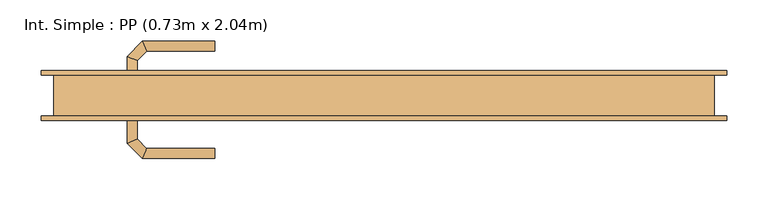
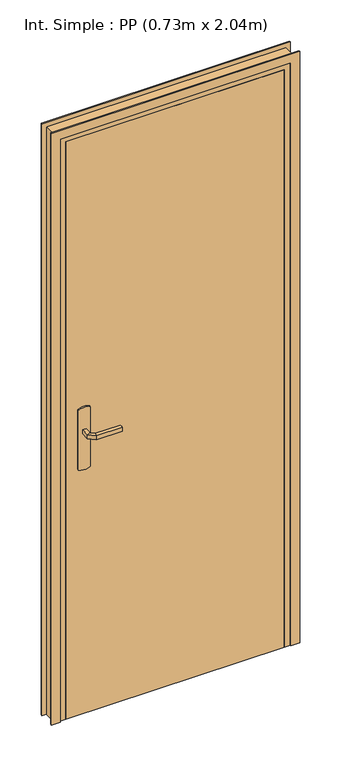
"""IFC4 building model written with IfcOpenShell, lengths in millimetres: door geometry, Int. Simple : PP (0.73m x 2.04m)."""

import ifcopenshell
import ifcopenshell.guid

model = None  # the IFC model being written
_history = None  # IfcOwnerHistory: only IFC2X3 demands one
_inside = {}  # id of a spatial element -> (the spatial element, [elements in it])
_under = {}  # id of a project, library or spatial element -> (it, [spatial elements below it])
_declared = {}  # id of a project -> (the project, [libraries it declares])
_typed = {}  # id of a type object -> (the type object, [elements of that type])
_made_of = {}  # id of a material, layer set ... -> (it, [elements and type objects made of it])


def new_model(schema):
    """Start an empty IFC model of exactly this schema.

    Asked for "IFC4X3", IfcOpenShell would pick the latest addendum, in which some entities
    have other attributes; the version numbers below select the first issue.
    IFC2X3 requires an IfcOwnerHistory on every rooted entity: one is made here for all.
    """
    global model, _history
    if schema == "IFC4X3":
        model = ifcopenshell.file(schema_version=(4, 3, 0, 0))
    else:
        model = ifcopenshell.file(schema=schema)
    _inside.clear()
    _under.clear()
    _declared.clear()
    _typed.clear()
    _made_of.clear()
    _history = None
    if model.schema == "IFC2X3":
        org = make("IfcOrganization", Name="unknown")
        user = make(
            "IfcPersonAndOrganization",
            ThePerson=make("IfcPerson", FamilyName="unknown"),
            TheOrganization=org,
        )
        app = make(
            "IfcApplication",
            ApplicationDeveloper=org,
            Version="unknown",
            ApplicationFullName="unknown",
            ApplicationIdentifier="unknown",
        )
        _history = make(
            "IfcOwnerHistory",
            OwningUser=user,
            OwningApplication=app,
            ChangeAction="ADDED",
            CreationDate=0,
        )
    return model


def make(cls, **values):
    """One entity of the class cls with the attributes given. An attribute that is None is left unset."""
    return model.create_entity(
        cls, **{name: value for name, value in values.items() if value is not None}
    )


def rooted(cls, **values):
    """An entity with a GlobalId (a new one), such as an element, a storey or a relation."""
    return make(cls, GlobalId=ifcopenshell.guid.new(), OwnerHistory=_history, **values)


def si_unit(unit_type, name, prefix=None):
    """IfcSIUnit, for example si_unit("LENGTHUNIT", "METRE", prefix="MILLI")."""
    return make("IfcSIUnit", UnitType=unit_type, Prefix=prefix, Name=name)


def assignment(units):
    """IfcUnitAssignment: the units of a project."""
    return None if units is None else make("IfcUnitAssignment", Units=units)


def point(xyz):
    """IfcCartesianPoint."""
    return None if xyz is None else make("IfcCartesianPoint", Coordinates=xyz)


def direction(xyz):
    """IfcDirection."""
    return None if xyz is None else make("IfcDirection", DirectionRatios=xyz)


def frame(location, z_axis=None, x_axis=None):
    """IfcAxis2Placement3D, a coordinate frame: its origin and axes. An axis left out is left unset."""
    return make(
        "IfcAxis2Placement3D",
        Location=point(location),
        Axis=direction(z_axis),
        RefDirection=direction(x_axis),
    )


def frame_2d(location, x_axis=None):
    """IfcAxis2Placement2D, a coordinate frame in the plane: its origin and x axis."""
    return make(
        "IfcAxis2Placement2D", Location=point(location), RefDirection=direction(x_axis)
    )


def origin():
    """The frame at (0, 0, 0) with its axes left unset."""
    return frame((0.0, 0.0, 0.0))


def origin_with_axes():
    """The frame at (0, 0, 0) with the z axis (0, 0, 1) and the x axis (1, 0, 0) written out."""
    return frame((0.0, 0.0, 0.0), z_axis=(0.0, 0.0, 1.0), x_axis=(1.0, 0.0, 0.0))


def place(relative_to, where):
    """IfcLocalPlacement: puts the frame where relative to a parent placement (None: the world)."""
    return make(
        "IfcLocalPlacement", PlacementRelTo=relative_to, RelativePlacement=where
    )


def context(
    kind, dimensions, precision=None, world=None, true_north=None, identifier=None
):
    """IfcGeometricRepresentationContext, for example the 3D "Model" context."""
    return make(
        "IfcGeometricRepresentationContext",
        ContextIdentifier=identifier,
        ContextType=kind,
        CoordinateSpaceDimension=dimensions,
        Precision=precision,
        WorldCoordinateSystem=world,
        TrueNorth=true_north,
    )


def project(units=None, contexts=None):
    """IfcProject with its units and contexts."""
    return rooted(
        "IfcProject",
        Name="project",
        RepresentationContexts=contexts,
        UnitsInContext=assignment(units),
    )


def spatial(cls, under=None, at=None, **own):
    """A site, building, storey or space (cls), placed at a placement, below another one or the project."""
    s = rooted(cls, ObjectPlacement=at, **own)
    if under is not None:
        _under.setdefault(under.id(), (under, []))[1].append(s)
    return s


def polyline(points):
    """IfcPolyline through the points."""
    return make("IfcPolyline", Points=[point(p) for p in points])


def circle_curve(where, radius):
    """IfcCircle in the frame where."""
    return make("IfcCircle", Position=where, Radius=radius)


def ellipse_curve(where, semi_axis1, semi_axis2):
    """IfcEllipse in the frame where."""
    return make(
        "IfcEllipse", Position=where, SemiAxis1=semi_axis1, SemiAxis2=semi_axis2
    )


def trimmed(basis, trim1, trim2, sense, master):
    """IfcTrimmedCurve: the piece of a basis curve between two trims."""
    return make(
        "IfcTrimmedCurve",
        BasisCurve=basis,
        Trim1=trim1,
        Trim2=trim2,
        SenseAgreement=sense,
        MasterRepresentation=master,
    )


def segment(curve, same_sense, transition):
    """IfcCompositeCurveSegment."""
    return make(
        "IfcCompositeCurveSegment",
        Transition=transition,
        SameSense=same_sense,
        ParentCurve=curve,
    )


def composite_curve(segments, self_intersect=None):
    """IfcCompositeCurve: segments joined end to end."""
    return make("IfcCompositeCurve", Segments=segments, SelfIntersect=self_intersect)


def outline(outer, holes=None, kind="AREA"):
    """IfcArbitraryClosedProfileDef: a profile drawn as a closed curve; with holes, ...WithVoids."""
    if holes is None:
        return make("IfcArbitraryClosedProfileDef", ProfileType=kind, OuterCurve=outer)
    return make(
        "IfcArbitraryProfileDefWithVoids",
        ProfileType=kind,
        OuterCurve=outer,
        InnerCurves=holes,
    )


def extrude(swept, where, along, depth):
    """IfcExtrudedAreaSolid: the profile swept, set in the frame where, extruded along a direction by depth."""
    return make(
        "IfcExtrudedAreaSolid",
        SweptArea=swept,
        Position=where,
        ExtrudedDirection=direction(along),
        Depth=depth,
    )


def faces_of(points, faces, orient=None, outer=None):
    """IfcFace entities. A face is a list of loops; a loop is a list of indices into points, from 0.

    orient and outer hold one flag for each loop. By default every Orientation is true, the
    first loop of a face is its IfcFaceOuterBound and the others are IfcFaceBound.
    """
    made = []
    for i, loops in enumerate(faces):
        bounds = []
        for j, loop in enumerate(loops):
            is_outer = j == 0 if outer is None else outer[i][j]
            bounds.append(
                make(
                    "IfcFaceOuterBound" if is_outer else "IfcFaceBound",
                    Bound=make("IfcPolyLoop", Polygon=[points[k] for k in loop]),
                    Orientation=True if orient is None else orient[i][j],
                )
            )
        made.append(make("IfcFace", Bounds=bounds))
    return made


def faceted_brep(points, faces, orient=None, outer=None, voids=None):
    """IfcFacetedBrep: a solid bounded by flat faces; with voids (closed shells), ...WithVoids."""
    shared = [point(p) for p in points]
    hull = make("IfcClosedShell", CfsFaces=faces_of(shared, faces, orient, outer))
    if voids is None:
        return make("IfcFacetedBrep", Outer=hull)
    return make(
        "IfcFacetedBrepWithVoids",
        Outer=hull,
        Voids=[
            make(cls, CfsFaces=faces_of(shared, fs, o, b)) for cls, fs, o, b in voids
        ],
    )


def shape(context_of_items, identifier, shape_type, items):
    """IfcShapeRepresentation: the items that make up one representation, for example the "Body"."""
    return make(
        "IfcShapeRepresentation",
        ContextOfItems=context_of_items,
        RepresentationIdentifier=identifier,
        RepresentationType=shape_type,
        Items=items,
    )


def source(mapping_origin, context_of_items, identifier, shape_type, items):
    """IfcRepresentationMap: a shape defined once, which mapped items show again and again."""
    return make(
        "IfcRepresentationMap",
        MappingOrigin=mapping_origin,
        MappedRepresentation=shape(context_of_items, identifier, shape_type, items),
    )


def transform(
    local_origin,
    x_axis=None,
    y_axis=None,
    z_axis=None,
    scale=None,
    scale2=None,
    scale3=None,
    uniform=True,
):
    """IfcCartesianTransformationOperator3D, or its non-uniform kind. x_axis, y_axis, z_axis: its Axis1, 2, 3."""
    if uniform:
        return make(
            "IfcCartesianTransformationOperator3D",
            Axis1=direction(x_axis),
            Axis2=direction(y_axis),
            LocalOrigin=point(local_origin),
            Scale=scale,
            Axis3=direction(z_axis),
        )
    return make(
        "IfcCartesianTransformationOperator3DnonUniform",
        Axis1=direction(x_axis),
        Axis2=direction(y_axis),
        LocalOrigin=point(local_origin),
        Scale=scale,
        Axis3=direction(z_axis),
        Scale2=scale2,
        Scale3=scale3,
    )


def mapped(mapping_source, mapping_target):
    """IfcMappedItem: shows the shape of a source again, moved by a transform."""
    return make(
        "IfcMappedItem", MappingSource=mapping_source, MappingTarget=mapping_target
    )


def made_of(thing, what):
    """Note that an element or type object is made of a material, layer set ...; save() writes the relation."""
    if what is not None:
        _made_of.setdefault(what.id(), (what, []))[1].append(thing)
    return thing


def element(
    cls,
    number,
    at=None,
    inside=None,
    cuts=None,
    type_object=None,
    material=None,
    context=None,
    identifier="Body",
    shape_type=None,
    held_by="IfcProductDefinitionShape",
    body=None,
    shapes=None,
    **own,
):
    """One element of the class cls, such as IfcWall. Its Tag is "e" and its number.

    at: its placement. inside: the storey or other place that contains it. cuts: it is an
    opening in that element (IfcRelVoidsElement). A single representation is given by context,
    identifier, shape_type and body (its items); several are given by shapes. held_by: the class
    of the entity that holds the representations. save() writes the other relations.
    """
    e = rooted(cls, Tag="e%d" % number, ObjectPlacement=at, **own)
    if body is not None:
        shapes = [shape(context, identifier, shape_type, body)]
    if shapes is not None:
        e.Representation = make(held_by, Representations=shapes)
    if inside is not None:
        _inside.setdefault(inside.id(), (inside, []))[1].append(e)
    if cuts is not None:
        rooted(
            "IfcRelVoidsElement", RelatingBuildingElement=cuts, RelatedOpeningElement=e
        )
    if type_object is not None:
        _typed.setdefault(type_object.id(), (type_object, []))[1].append(e)
    return made_of(e, material)


def aggregate(whole, parts):
    """IfcRelAggregates: a whole, such as a stair, and the parts it consists of."""
    return rooted("IfcRelAggregates", RelatingObject=whole, RelatedObjects=parts)


def save(model, path):
    """Write the relations noted so far, then the file.

    IfcRelAggregates (storeys below a building ...), IfcRelContainedInSpatialStructure (elements
    in a storey), IfcRelDefinesByType, IfcRelAssociatesMaterial and IfcRelDeclares: one each for
    every whole, place, type object, material and project.
    """
    for whole, parts in _under.values():
        aggregate(whole, parts)
    for where, things in _inside.values():
        rooted(
            "IfcRelContainedInSpatialStructure",
            RelatedElements=things,
            RelatingStructure=where,
        )
    for kind, things in _typed.values():
        rooted("IfcRelDefinesByType", RelatedObjects=things, RelatingType=kind)
    for what, things in _made_of.values():
        rooted("IfcRelAssociatesMaterial", RelatedObjects=things, RelatingMaterial=what)
    for by, libraries in _declared.values():
        rooted("IfcRelDeclares", RelatingContext=by, RelatedDefinitions=libraries)
    model.write(path)


def plane_surface(at):
    """IfcPlane: the flat surface through the origin of the frame at, square to its z axis."""
    return make("IfcPlane", Position=at)


def cylinder_surface(at, radius):
    """IfcCylindricalSurface: all points at the distance radius from the z axis of the frame at."""
    return make("IfcCylindricalSurface", Position=at, Radius=radius)


def advanced_brep(points, edges, surfaces, faces):
    """IfcAdvancedBrep: a solid bounded by faces that lie on surfaces and meet in shared edges.

    An edge is (start, end): straight between two places in points (the first is 0);
    or (start, end, curve); or (start, end, curve, False) where it runs against its curve.
    A face is (place in surfaces, loops), or (place, loops, False) where it looks against
    its surface's normal. A loop lists edges by number (the first is 1), with a minus sign
    where the edge is run from its end to its start. The first loop is the outer one.
    """
    corners = [point(p) for p in points]
    vertices = [make("IfcVertexPoint", VertexGeometry=c) for c in corners]
    made = []
    for start, end, *more in edges:
        made.append(
            make(
                "IfcEdgeCurve",
                EdgeStart=vertices[start],
                EdgeEnd=vertices[end],
                EdgeGeometry=more[0] if more else make("IfcPolyline", Points=[corners[start], corners[end]]),
                SameSense=more[1] if len(more) > 1 else True,
            )
        )
    hull = []
    for where, loops, *sense in faces:
        bounds = []
        for j, loop in enumerate(loops):
            ring = [make("IfcOrientedEdge", EdgeElement=made[abs(k) - 1], Orientation=k > 0) for k in loop]
            bounds.append(
                make(
                    "IfcFaceOuterBound" if j == 0 else "IfcFaceBound",
                    Bound=make("IfcEdgeLoop", EdgeList=ring),
                    Orientation=True,
                )
            )
        hull.append(make("IfcAdvancedFace", Bounds=bounds, FaceSurface=surfaces[where], SameSense=sense[0] if sense else True))
    return make("IfcAdvancedBrep", Outer=make("IfcClosedShell", CfsFaces=hull))


def int_simple_pp_0_73m_x_2_04m_d3aae1b6(model_context):
    return source(origin(), model_context, "Body", "SolidModel", [
        extrude(outline(composite_curve([segment(trimmed(circle_curve(frame_2d((904.6410162, -340.0)), 40.0), [point((870.0, -360.0))], [point((870.0, -320.0))], False, "CARTESIAN"), True, "CONTINUOUS"), segment(polyline([(870.0, -320.0), (1080.0, -320.0)]), True, "CONTINUOUS"), segment(trimmed(circle_curve(frame_2d((1045.3589838, -340.0)), 40.0), [point((1080.0, -320.0))], [point((1080.0, -360.0))], False, "CARTESIAN"), True, "CONTINUOUS"), segment(polyline([(1080.0, -360.0), (870.0, -360.0)]), True, "CONTINUOUS")], self_intersect=False)), frame((0.0, -30.0, 0.0), z_axis=(0.0, 1.0, 0.0), x_axis=(0.0, 0.0, 1.0)), (0.0, 0.0, 1.0), 5.0),
        extrude(outline(composite_curve([segment(trimmed(circle_curve(frame_2d((1045.3589838, -340.0)), 40.0), [point((1080.0, -320.0))], [point((1080.0, -360.0))], False, "CARTESIAN"), True, "CONTINUOUS"), segment(polyline([(1080.0, -360.0), (870.0, -360.0)]), True, "CONTINUOUS"), segment(trimmed(circle_curve(frame_2d((904.6410162, -340.0)), 40.0), [point((870.0, -360.0))], [point((870.0, -320.0))], False, "CARTESIAN"), True, "CONTINUOUS"), segment(polyline([(870.0, -320.0), (1080.0, -320.0)]), True, "CONTINUOUS")], self_intersect=False)), frame((0.0, 15.0, 0.0), z_axis=(0.0, 1.0, 0.0), x_axis=(0.0, 0.0, 1.0)), (0.0, 0.0, 1.0), 5.0),
        advanced_brep(
        [(-346.0, -30.0, 1007.0), (-334.0, -30.0, 1007.0), (-334.0, -30.0, 993.0), (-346.0, -30.0, 993.0), (-346.0, -57.6509507, 1007.0), (-334.0, -52.680388, 1007.0), (-334.0, -52.680388, 993.0), (-346.0, -57.6509507, 993.0), (-327.62279, -76.0281607, 1007.0), (-322.6522273, -64.0281607, 1007.0), (-322.6522273, -64.0281607, 993.0), (-327.62279, -76.0281607, 993.0), (-239.9813594, -76.0281607, 1007.0), (-239.9813594, -76.0281607, 993.0), (-239.9813594, -64.0281607, 993.0), (-239.9813594, -64.0281607, 1007.0)],
        [
            (0, 1, circle_curve(frame((-340.0, -30.0, 986.9542278), z_axis=(0.0, 1.0, 0.0), x_axis=(1.0, 0.0, 0.0)), 20.9244589)),
            (1, 2),
            (2, 3, circle_curve(frame((-340.0, -30.0, 1013.0457722), z_axis=(0.0, 1.0, 0.0), x_axis=(1.0, 0.0, 0.0)), 20.9244589)),
            (3, 0),
            (0, 4),
            (4, 5, ellipse_curve(frame((-340.0, -55.1656693, 986.9542278), z_axis=(-0.3826834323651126, 0.9238795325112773, 0.0), x_axis=(0.9238795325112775, 0.38268343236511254, 0.0)), 22.6484711, 20.9244589)),
            (5, 1),
            (5, 6),
            (6, 2),
            (6, 7, ellipse_curve(frame((-340.0, -55.1656693, 1013.0457722), z_axis=(-0.3826834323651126, 0.9238795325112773, 0.0), x_axis=(0.9238795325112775, 0.38268343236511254, 0.0)), 22.6484711, 20.9244589)),
            (7, 3),
            (7, 4),
            (4, 8),
            (8, 9, ellipse_curve(frame((-325.1375086, -70.0281607, 986.9542278), z_axis=(-0.9238795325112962, 0.38268343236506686, 0.0), x_axis=(0.3826834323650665, 0.9238795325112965, 0.0)), 22.6484711, 20.9244589)),
            (9, 5),
            (9, 10),
            (10, 6),
            (10, 11, ellipse_curve(frame((-325.1375086, -70.0281607, 1013.0457722), z_axis=(-0.9238795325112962, 0.38268343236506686, 0.0), x_axis=(0.3826834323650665, 0.9238795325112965, 0.0)), 22.6484711, 20.9244589)),
            (11, 7),
            (11, 8),
            (12, 13),
            (13, 14, circle_curve(frame((-239.9813594, -70.0281607, 1013.0457722), z_axis=(1.0, 0.0, 0.0), x_axis=(0.0, 1.0, 0.0)), 20.9244589)),
            (14, 15),
            (15, 12, circle_curve(frame((-239.9813594, -70.0281607, 986.9542278), z_axis=(1.0, 0.0, 0.0), x_axis=(0.0, 1.0, 0.0)), 20.9244589)),
            (8, 12),
            (15, 9),
            (14, 10),
            (13, 11),
        ],
        [
            plane_surface(frame((-349.2195445, -30.0, 1000.0), z_axis=(0.0, 1.0, 0.0), x_axis=(0.0, 0.0, -1.0))),
            cylinder_surface(frame((-340.0, -30.0, 986.9542278), z_axis=(0.0, 1.0, 0.0), x_axis=(1.0, 0.0, 0.0)), 20.9244589),
            plane_surface(frame((-334.0, -30.0, 1007.0), z_axis=(1.0, 0.0, 0.0), x_axis=(0.0, -1.0, 0.0))),
            cylinder_surface(frame((-340.0, -30.0, 1013.0457722), z_axis=(0.0, 1.0, 0.0), x_axis=(1.0, 0.0, 0.0)), 20.9244589),
            plane_surface(frame((-346.0, -30.0, 993.0), z_axis=(-1.0, 0.0, 0.0), x_axis=(0.0, -1.0, 0.0))),
            cylinder_surface(frame((-340.0, -55.1656693, 986.9542278), z_axis=(-0.7071067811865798, 0.7071067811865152, 0.0), x_axis=(0.7071067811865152, 0.7071067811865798, 0.0)), 20.9244589),
            plane_surface(frame((-334.0, -52.680388, 1007.0), z_axis=(0.7071067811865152, 0.7071067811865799, 0.0), x_axis=(0.7071067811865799, -0.7071067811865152, 0.0))),
            cylinder_surface(frame((-340.0, -55.1656693, 1013.0457722), z_axis=(-0.7071067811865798, 0.7071067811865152, 0.0), x_axis=(0.7071067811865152, 0.7071067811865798, 0.0)), 20.9244589),
            plane_surface(frame((-346.0, -57.6509507, 993.0), z_axis=(-0.7071067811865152, -0.7071067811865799, 0.0), x_axis=(0.7071067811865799, -0.7071067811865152, 0.0))),
            plane_surface(frame((-239.9813594, -70.0281607, 990.7804555), z_axis=(1.0, 0.0, 0.0), x_axis=(0.0, 1.0, 0.0))),
            cylinder_surface(frame((-325.1375086, -70.0281607, 986.9542278), z_axis=(-1.0, 0.0, 0.0), x_axis=(0.0, 1.0, 0.0)), 20.9244589),
            plane_surface(frame((-322.6522273, -64.0281607, 1007.0), z_axis=(0.0, 1.0, 0.0), x_axis=(1.0, 0.0, 0.0))),
            cylinder_surface(frame((-325.1375086, -70.0281607, 1013.0457722), z_axis=(-1.0, 0.0, 0.0), x_axis=(0.0, 1.0, 0.0)), 20.9244589),
            plane_surface(frame((-327.62279, -76.0281607, 993.0), z_axis=(0.0, -1.0, 0.0), x_axis=(1.0, 0.0, 0.0))),
        ],
        [
            (0, [[1, 2, 3, 4]]),
            (1, [[-1, 5, 6, 7]]),
            (2, [[-2, -7, 8, 9]]),
            (3, [[-3, -9, 10, 11]]),
            (4, [[-4, -11, 12, -5]]),
            (5, [[-6, 13, 14, 15]]),
            (6, [[-8, -15, 16, 17]]),
            (7, [[-10, -17, 18, 19]]),
            (8, [[-12, -19, 20, -13]]),
            (9, [[21, 22, 23, 24]]),
            (10, [[-14, 25, -24, 26]]),
            (11, [[-16, -26, -23, 27]]),
            (12, [[-18, -27, -22, 28]]),
            (13, [[-20, -28, -21, -25]]),
        ],
    ),
        advanced_brep(
        [(-334.0, 20.0, 993.0), (-334.0, 20.0, 1007.0), (-346.0, 20.0, 1007.0), (-346.0, 20.0, 993.0), (-334.0, 42.4852045, 993.0), (-334.0, 42.4852045, 1007.0), (-346.0, 47.4557673, 1007.0), (-346.0, 47.4557673, 993.0), (-322.5147186, 53.9704859, 993.0), (-322.5147186, 53.9704859, 1007.0), (-327.4852814, 65.9704859, 1007.0), (-327.4852814, 65.9704859, 993.0), (-239.9542163, 53.9704859, 993.0), (-239.9542163, 65.9704859, 993.0), (-239.9542163, 65.9704859, 1007.0), (-239.9542163, 53.9704859, 1007.0)],
        [
            (0, 1),
            (1, 2, circle_curve(frame((-340.0, 20.0, 986.9542278), z_axis=(0.0, -1.0, 0.0), x_axis=(-1.0, 0.0, 0.0)), 20.9244589)),
            (2, 3),
            (3, 0, circle_curve(frame((-340.0, 20.0, 1013.0457722), z_axis=(0.0, -1.0, 0.0), x_axis=(-1.0, 0.0, 0.0)), 20.9244589)),
            (0, 4),
            (4, 5),
            (5, 1),
            (5, 6, ellipse_curve(frame((-340.0, 44.9704859, 986.9542278), z_axis=(-0.3826834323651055, -0.9238795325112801, 0.0), x_axis=(0.9238795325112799, -0.3826834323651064, 0.0)), 22.6484711, 20.9244589)),
            (6, 2),
            (6, 7),
            (7, 3),
            (7, 4, ellipse_curve(frame((-340.0, 44.9704859, 1013.0457722), z_axis=(-0.3826834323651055, -0.9238795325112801, 0.0), x_axis=(0.9238795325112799, -0.3826834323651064, 0.0)), 22.6484711, 20.9244589)),
            (4, 8),
            (8, 9),
            (9, 5),
            (9, 10, ellipse_curve(frame((-325.0, 59.9704859, 986.9542278), z_axis=(-0.9238795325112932, -0.382683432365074, 0.0), x_axis=(0.3826834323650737, -0.9238795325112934, 0.0)), 22.6484711, 20.9244589)),
            (10, 6),
            (10, 11),
            (11, 7),
            (11, 8, ellipse_curve(frame((-325.0, 59.9704859, 1013.0457722), z_axis=(-0.9238795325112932, -0.382683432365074, 0.0), x_axis=(0.3826834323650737, -0.9238795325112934, 0.0)), 22.6484711, 20.9244589)),
            (12, 13, circle_curve(frame((-239.9542163, 59.9704859, 1013.0457722), z_axis=(1.0, 0.0, 0.0), x_axis=(0.0, 1.0, 0.0)), 20.9244589)),
            (13, 14),
            (14, 15, circle_curve(frame((-239.9542163, 59.9704859, 986.9542278), z_axis=(1.0, 0.0, 0.0), x_axis=(0.0, 1.0, 0.0)), 20.9244589)),
            (15, 12),
            (8, 12),
            (15, 9),
            (14, 10),
            (13, 11),
        ],
        [
            plane_surface(frame((-349.2195445, 20.0, 1000.0), z_axis=(0.0, -1.0, 0.0), x_axis=(0.0, 0.0, 1.0))),
            plane_surface(frame((-334.0, 20.0, 993.0), z_axis=(1.0, 0.0, 0.0), x_axis=(0.0, 1.0, 0.0))),
            cylinder_surface(frame((-340.0, 20.0, 986.9542278), z_axis=(0.0, -1.0, 0.0), x_axis=(-1.0, 0.0, 0.0)), 20.9244589),
            plane_surface(frame((-346.0, 20.0, 1007.0), z_axis=(-1.0, 0.0, 0.0), x_axis=(0.0, 1.0, 0.0))),
            cylinder_surface(frame((-340.0, 20.0, 1013.0457722), z_axis=(0.0, -1.0, 0.0), x_axis=(-1.0, 0.0, 0.0)), 20.9244589),
            plane_surface(frame((-334.0, 42.4852045, 993.0), z_axis=(0.7071067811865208, -0.7071067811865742, 0.0), x_axis=(0.7071067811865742, 0.7071067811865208, 0.0))),
            cylinder_surface(frame((-340.0, 44.9704859, 986.9542278), z_axis=(-0.7071067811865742, -0.7071067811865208, 0.0), x_axis=(-0.7071067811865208, 0.7071067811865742, 0.0)), 20.9244589),
            plane_surface(frame((-346.0, 47.4557673, 1007.0), z_axis=(-0.7071067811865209, 0.7071067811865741, 0.0), x_axis=(0.7071067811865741, 0.7071067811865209, 0.0))),
            cylinder_surface(frame((-340.0, 44.9704859, 1013.0457722), z_axis=(-0.7071067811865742, -0.7071067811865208, 0.0), x_axis=(-0.7071067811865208, 0.7071067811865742, 0.0)), 20.9244589),
            plane_surface(frame((-239.9542163, 59.9704859, 990.7804555), z_axis=(1.0, 0.0, 0.0), x_axis=(0.0, 1.0, 0.0))),
            plane_surface(frame((-322.5147186, 53.9704859, 993.0), z_axis=(0.0, -1.0, 0.0), x_axis=(1.0, 0.0, 0.0))),
            cylinder_surface(frame((-325.0, 59.9704859, 986.9542278), z_axis=(-1.0, 0.0, 0.0), x_axis=(0.0, 1.0, 0.0)), 20.9244589),
            plane_surface(frame((-327.4852814, 65.9704859, 1007.0), z_axis=(0.0, 1.0, 0.0), x_axis=(1.0, 0.0, 0.0))),
            cylinder_surface(frame((-325.0, 59.9704859, 1013.0457722), z_axis=(-1.0, 0.0, 0.0), x_axis=(0.0, 1.0, 0.0)), 20.9244589),
        ],
        [
            (0, [[1, 2, 3, 4]]),
            (1, [[-1, 5, 6, 7]]),
            (2, [[-2, -7, 8, 9]]),
            (3, [[-3, -9, 10, 11]]),
            (4, [[-4, -11, 12, -5]]),
            (5, [[-6, 13, 14, 15]]),
            (6, [[-8, -15, 16, 17]]),
            (7, [[-10, -17, 18, 19]]),
            (8, [[-12, -19, 20, -13]]),
            (9, [[21, 22, 23, 24]]),
            (10, [[-14, 25, -24, 26]]),
            (11, [[-16, -26, -23, 27]]),
            (12, [[-18, -27, -22, 28]]),
            (13, [[-20, -28, -21, -25]]),
        ],
    ),
        extrude(outline(polyline([(-400.0, 15.0), (330.0, 15.0), (330.0, -25.0), (-400.0, -25.0), (-400.0, 15.0)])), origin_with_axes(), (0.0, 0.0, 1.0), 2040.0),
        faceted_brep([(-435.0, -25.0, 0.0), (-435.0, 25.0, 0.0), (-385.0, 25.0, 0.0), (-385.0, 15.0, 0.0), (-400.0, 15.0, 0.0), (-400.0, -25.0, 0.0), (-435.0, -25.0, 2075.0), (-435.0, 25.0, 2075.0), (365.0, 25.0, 2075.0), (365.0, 25.0, 0.0), (315.0, 25.0, 0.0), (315.0, 25.0, 2025.0), (-385.0, 25.0, 2025.0), (-385.0, 15.0, 2025.0), (315.0, 15.0, 2025.0), (315.0, 15.0, 0.0), (330.0, 15.0, 0.0), (330.0, 15.0, 2040.0), (-400.0, 15.0, 2040.0), (-400.0, -25.0, 2040.0), (330.0, -25.0, 2040.0), (330.0, -25.0, 0.0), (365.0, -25.0, 0.0), (365.0, -25.0, 2075.0)], [[[0, 1, 2, 3, 4, 5]], [[1, 0, 6, 7]], [[2, 1, 7, 8, 9, 10, 11, 12]], [[3, 2, 12, 13]], [[4, 3, 13, 14, 15, 16, 17, 18]], [[5, 4, 18, 19]], [[0, 5, 19, 20, 21, 22, 23, 6]], [[8, 23, 22, 9]], [[22, 21, 16, 15, 10, 9]], [[14, 11, 10, 15]], [[20, 17, 16, 21]], [[7, 6, 23, 8]], [[13, 12, 11, 14]], [[19, 18, 17, 20]]]),
        extrude(outline(polyline([(0.0, -450.0), (0.0, -420.0), (2060.0, -420.0), (2060.0, 350.0), (0.0, 350.0), (0.0, 380.0), (2090.0, 380.0), (2090.0, -450.0), (0.0, -450.0)])), frame((0.0, -30.0, 0.0), z_axis=(0.0, 1.0, 0.0), x_axis=(0.0, 0.0, 1.0)), (0.0, 0.0, 1.0), 5.0),
        extrude(outline(polyline([(0.0, -450.0), (0.0, -420.0), (2060.0, -420.0), (2060.0, 350.0), (0.0, 350.0), (0.0, 380.0), (2090.0, 380.0), (2090.0, -450.0), (0.0, -450.0)])), frame((0.0, 25.0, 0.0), z_axis=(0.0, 1.0, 0.0), x_axis=(0.0, 0.0, 1.0)), (0.0, 0.0, 1.0), 5.0),
    ])


if __name__ == "__main__":
    model = new_model("IFC4")
    model_context = context("Model", 3, world=origin())
    ifc_project = project(units=[si_unit("LENGTHUNIT", "METRE", prefix="MILLI")], contexts=[model_context])
    site = spatial("IfcSite", under=ifc_project)
    building = spatial("IfcBuilding", under=site)
    placement = place(None, origin())
    int_simple_pp_0_73m_x_2_04m_shape = int_simple_pp_0_73m_x_2_04m_d3aae1b6(model_context)
    element("IfcDoor", 1, ObjectType="Int. Simple : PP (0.73m x 2.04m)", at=placement, inside=building, context=model_context, shape_type="MappedRepresentation", body=[
        mapped(int_simple_pp_0_73m_x_2_04m_shape, transform((0.0, 0.0, 0.0), x_axis=(1.0, 0.0, 0.0), y_axis=(0.0, 1.0, 0.0), z_axis=(0.0, 0.0, 1.0))),
    ])
    save(model, "model.ifc")
